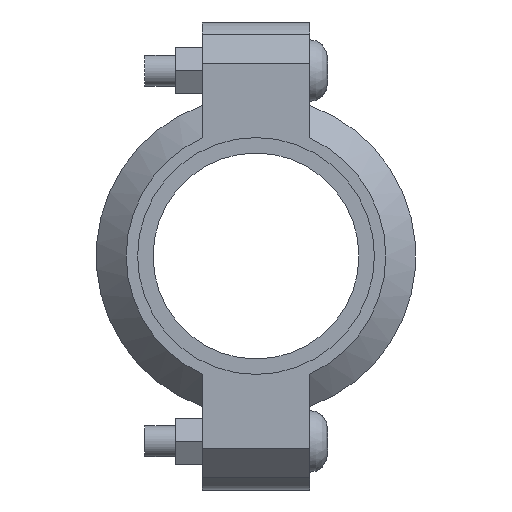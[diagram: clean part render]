
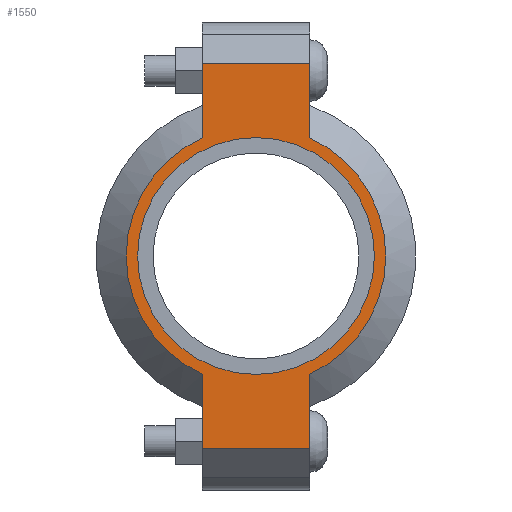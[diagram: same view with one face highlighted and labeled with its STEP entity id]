
A CAD part, left-side view. The second image highlights one B-rep face of the part: STEP entity #1550.
In plain terms, the highlighted planar face has unit normal (-1, 0, 0) as drawn and (0, 0, 1) by its records, which use the part's own axes.
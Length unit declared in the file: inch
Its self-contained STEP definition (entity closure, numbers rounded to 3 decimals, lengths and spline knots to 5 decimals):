
#174=LINE('',#2696,#267);
#182=LINE('',#2732,#275);
#189=LINE('',#2753,#282);
#198=LINE('',#2785,#291);
#199=LINE('',#2789,#292);
#200=LINE('',#2791,#293);
#267=VECTOR('',#2196,0.3937);
#275=VECTOR('',#2212,0.3937);
#282=VECTOR('',#2231,0.3937);
#291=VECTOR('',#2256,0.3937);
#292=VECTOR('',#2261,0.3937);
#293=VECTOR('',#2262,0.3937);
#349=FACE_BOUND('',#527,.T.);
#421=FACE_OUTER_BOUND('',#526,.T.);
#526=EDGE_LOOP('',(#1291,#1292,#1293,#1294,#1295,#1296,#1297,#1298));
#527=EDGE_LOOP('',(#1299));
#599=CIRCLE('',#1760,1.4375);
#625=CIRCLE('',#1819,1.575);
#626=CIRCLE('',#1820,1.575);
#691=VERTEX_POINT('',#2512);
#734=VERTEX_POINT('',#2693);
#735=VERTEX_POINT('',#2695);
#746=VERTEX_POINT('',#2727);
#747=VERTEX_POINT('',#2731);
#754=VERTEX_POINT('',#2750);
#755=VERTEX_POINT('',#2752);
#765=VERTEX_POINT('',#2788);
#766=VERTEX_POINT('',#2790);
#847=EDGE_CURVE('',#691,#691,#599,.T.);
#908=EDGE_CURVE('',#735,#734,#174,.T.);
#922=EDGE_CURVE('',#747,#746,#182,.T.);
#932=EDGE_CURVE('',#755,#754,#189,.T.);
#947=EDGE_CURVE('',#747,#734,#198,.T.);
#948=EDGE_CURVE('',#746,#755,#625,.T.);
#949=EDGE_CURVE('',#765,#754,#199,.T.);
#950=EDGE_CURVE('',#765,#766,#200,.T.);
#951=EDGE_CURVE('',#766,#735,#626,.T.);
#1291=ORIENTED_EDGE('',*,*,#947,.F.);
#1292=ORIENTED_EDGE('',*,*,#922,.T.);
#1293=ORIENTED_EDGE('',*,*,#948,.T.);
#1294=ORIENTED_EDGE('',*,*,#932,.T.);
#1295=ORIENTED_EDGE('',*,*,#949,.F.);
#1296=ORIENTED_EDGE('',*,*,#950,.T.);
#1297=ORIENTED_EDGE('',*,*,#951,.T.);
#1298=ORIENTED_EDGE('',*,*,#908,.T.);
#1299=ORIENTED_EDGE('',*,*,#847,.T.);
#1392=PLANE('',#1818);
#1550=ADVANCED_FACE('',(#421,#349),#1392,.T.);
#1760=AXIS2_PLACEMENT_3D('',#2514,#2072,#2073);
#1818=AXIS2_PLACEMENT_3D('',#2786,#2257,#2258);
#1819=AXIS2_PLACEMENT_3D('',#2787,#2259,#2260);
#1820=AXIS2_PLACEMENT_3D('',#2792,#2263,#2264);
#2072=DIRECTION('center_axis',(0.,0.,-1.));
#2073=DIRECTION('ref_axis',(-1.,0.,0.));
#2196=DIRECTION('',(-1.,0.,0.));
#2212=DIRECTION('',(1.,0.,0.));
#2231=DIRECTION('',(1.,0.,0.));
#2256=DIRECTION('',(0.,1.,0.));
#2257=DIRECTION('center_axis',(0.,0.,1.));
#2258=DIRECTION('ref_axis',(1.,0.,0.));
#2259=DIRECTION('center_axis',(0.,0.,1.));
#2260=DIRECTION('ref_axis',(-1.,0.,0.));
#2261=DIRECTION('',(0.,-1.,0.));
#2262=DIRECTION('',(-1.,0.,0.));
#2263=DIRECTION('center_axis',(0.,0.,1.));
#2264=DIRECTION('ref_axis',(-1.,0.,0.));
#2512=CARTESIAN_POINT('',(1.4375,0.,0.94));
#2514=CARTESIAN_POINT('Origin',(0.,0.,0.94));
#2693=CARTESIAN_POINT('',(-2.34,0.65,0.94));
#2695=CARTESIAN_POINT('',(-1.43462,0.65,0.94));
#2696=CARTESIAN_POINT('',(-2.84,0.65,0.94));
#2727=CARTESIAN_POINT('',(-1.43462,-0.65,0.94));
#2731=CARTESIAN_POINT('',(-2.34,-0.65,0.94));
#2732=CARTESIAN_POINT('',(2.84,-0.65,0.94));
#2750=CARTESIAN_POINT('',(2.34,-0.65,0.94));
#2752=CARTESIAN_POINT('',(1.43462,-0.65,0.94));
#2753=CARTESIAN_POINT('',(2.84,-0.65,0.94));
#2785=CARTESIAN_POINT('',(-2.34,0.325,0.94));
#2786=CARTESIAN_POINT('Origin',(0.,0.,
0.94));
#2787=CARTESIAN_POINT('Origin',(0.,0.,0.94));
#2788=CARTESIAN_POINT('',(2.34,0.65,0.94));
#2789=CARTESIAN_POINT('',(2.34,-0.325,0.94));
#2790=CARTESIAN_POINT('',(1.43462,0.65,0.94));
#2791=CARTESIAN_POINT('',(-2.84,0.65,0.94));
#2792=CARTESIAN_POINT('Origin',(0.,0.,0.94));
